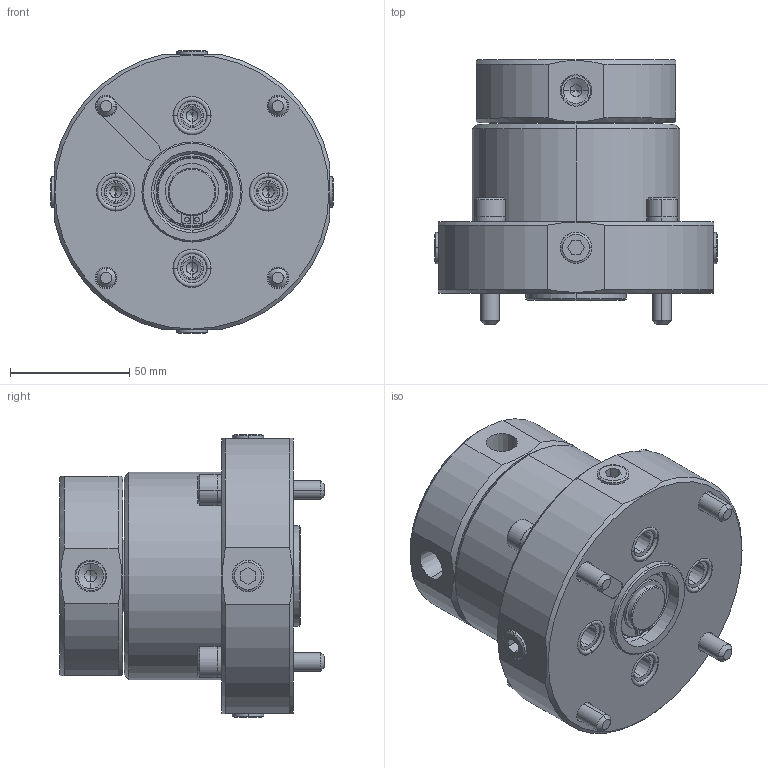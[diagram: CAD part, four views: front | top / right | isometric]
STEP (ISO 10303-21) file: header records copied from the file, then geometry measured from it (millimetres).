
FILE_DESCRIPTION((' '),'2;1');
FILE_NAME( 'TMC04-S-A.x_t.stp', '2024-09-03T08:16:50', (' '), ('--- Datakit www.datakit.com---'), ' Datakit CrossCadWare V2024.1 Dec 21 2023', 'Mastercam 2025', ' ');
FILE_SCHEMA(('AUTOMOTIVE_DESIGN { 1 0 10303 214 1 1 1 1 }'));
Length unit declared in the file: millimetre
Products named in the file (1): TMC04-S-A
Bounding box: 118.6 x 111 x 118.6 mm (x, y, z)
Volume: 702772.9 mm3; surface area: 101957.8 mm2
Topology: 20 solids, 20 shells, 510 faces, 1124 edges, 654 vertices
Faces by surface type: cone 176, plane 159, cylinder 155, torus 20
Entity records: 14586 total; most frequent: CARTESIAN_POINT 2681, DIRECTION 2638, ORIENTED_EDGE 2184, EDGE_CURVE 1092, AXIS2_PLACEMENT_3D 1091, VERTEX_POINT 654, EDGE_LOOP 574, CIRCLE 532
